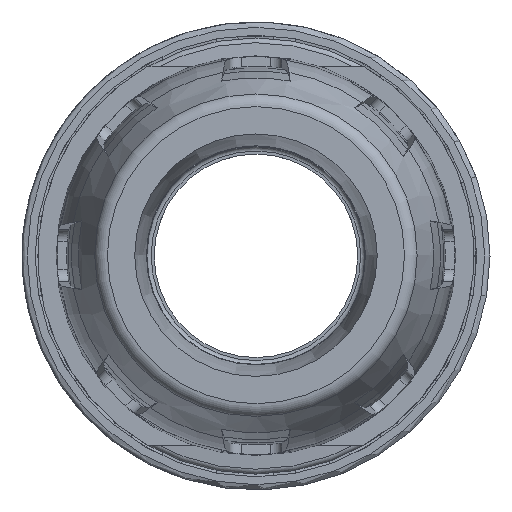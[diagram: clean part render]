
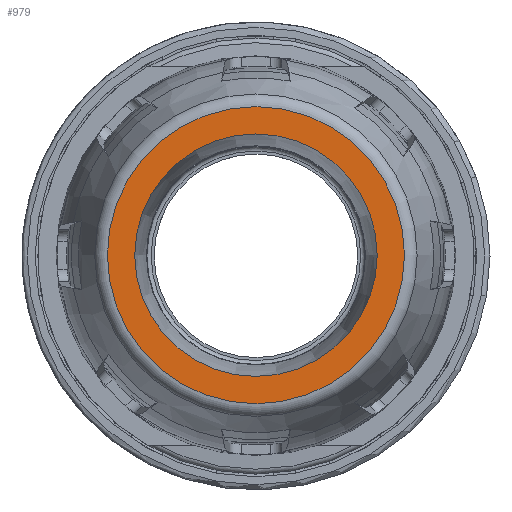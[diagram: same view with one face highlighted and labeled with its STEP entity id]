
A CAD part, top view. The second image highlights one B-rep face of the part: STEP entity #979.
In plain terms, the highlighted planar face has unit normal (0, 0, 1).
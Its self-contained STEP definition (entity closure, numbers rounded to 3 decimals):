
#979 = ADVANCED_FACE( '', ( #2160, #2161 ), #2162, .T. );
#2160 = FACE_OUTER_BOUND( '', #3875, .T. );
#2161 = FACE_BOUND( '', #3876, .T. );
#2162 = PLANE( '', #3877 );
#3875 = EDGE_LOOP( '', ( #7207 ) );
#3876 = EDGE_LOOP( '', ( #7208 ) );
#3877 = AXIS2_PLACEMENT_3D( '', #7209, #7210, #7211 );
#7207 = ORIENTED_EDGE( '', *, *, #9950, .F. );
#7208 = ORIENTED_EDGE( '', *, *, #9545, .F. );
#7209 = CARTESIAN_POINT( '', ( 22.627, 0., 23. ) );
#7210 = DIRECTION( '', ( 0., 0., 1. ) );
#7211 = DIRECTION( '', ( -1., 0., 0. ) );
#9545 = EDGE_CURVE( '', #11693, #11693, #11694, .T. );
#9950 = EDGE_CURVE( '', #12250, #12250, #12251, .T. );
#11693 = VERTEX_POINT( '', #15529 );
#11694 = CIRCLE( '', #15530, 22.627 );
#12250 = VERTEX_POINT( '', #16731 );
#12251 = CIRCLE( '', #16732, 27.727 );
#15529 = CARTESIAN_POINT( '', ( 22.627, 0., 23. ) );
#15530 = AXIS2_PLACEMENT_3D( '', #18497, #18498, #18499 );
#16731 = CARTESIAN_POINT( '', ( 27.727, 0., 23. ) );
#16732 = AXIS2_PLACEMENT_3D( '', #18869, #18870, #18871 );
#18497 = CARTESIAN_POINT( '', ( 0., 0., 23. ) );
#18498 = DIRECTION( '', ( 0., 0., 1. ) );
#18499 = DIRECTION( '', ( 1., 0., 0. ) );
#18869 = CARTESIAN_POINT( '', ( 0., 0., 23. ) );
#18870 = DIRECTION( '', ( 0., 0., -1. ) );
#18871 = DIRECTION( '', ( 1., 0., 0. ) );
